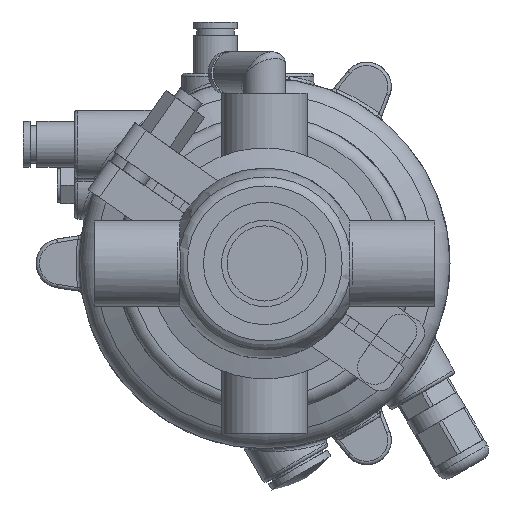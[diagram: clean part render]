
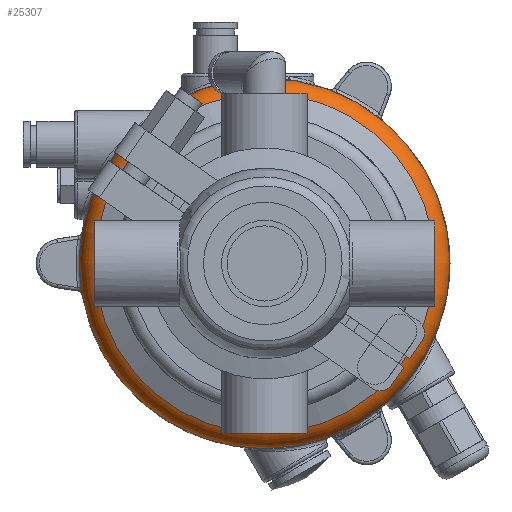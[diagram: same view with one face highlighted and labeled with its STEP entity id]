
A CAD part, front view. The second image highlights one B-rep face of the part: STEP entity #25307.
In plain terms, the highlighted toroidal (fillet/blend) face has major radius 46.5 mm and minor radius 8 mm.
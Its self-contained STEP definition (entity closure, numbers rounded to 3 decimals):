
#594 = CIRCLE ( 'NONE', #25969, 50.007 ) ;
#1123 = ORIENTED_EDGE ( 'NONE', *, *, #17403, .F. ) ;
#1853 = DIRECTION ( 'NONE',  ( 0., 0., -1. ) ) ;
#2256 = AXIS2_PLACEMENT_3D ( 'NONE', #18870, #10333, #38149 ) ;
#2432 = DIRECTION ( 'NONE',  ( 0., -1., 0. ) ) ;
#3221 = AXIS2_PLACEMENT_3D ( 'NONE', #34825, #2432, #1853 ) ;
#5834 = EDGE_LOOP ( 'NONE', ( #22072 ) ) ;
#9406 = EDGE_LOOP ( 'NONE', ( #1123 ) ) ;
#10151 = VERTEX_POINT ( 'NONE', #24227 ) ;
#10333 = DIRECTION ( 'NONE',  ( 0., -1., 0. ) ) ;
#17403 = EDGE_CURVE ( 'NONE', #10151, #10151, #594, .T. ) ;
#18870 = CARTESIAN_POINT ( 'NONE',  ( 0., 14.022, 0. ) ) ;
#21069 = FACE_OUTER_BOUND ( 'NONE', #5834, .T. ) ;
#22072 = ORIENTED_EDGE ( 'NONE', *, *, #37666, .T. ) ;
#24227 = CARTESIAN_POINT ( 'NONE',  ( 0., 6.832, -50.007 ) ) ;
#25307 = ADVANCED_FACE ( 'NONE', ( #21069, #49155 ), #29574, .T. ) ;
#25969 = AXIS2_PLACEMENT_3D ( 'NONE', #38404, #28599, #33496 ) ;
#26834 = VERTEX_POINT ( 'NONE', #46051 ) ;
#28599 = DIRECTION ( 'NONE',  ( 0., -1., 0. ) ) ;
#29574 = TOROIDAL_SURFACE ( 'NONE', #3221, 46.5, 8. ) ;
#33496 = DIRECTION ( 'NONE',  ( 0., 0., -1. ) ) ;
#34825 = CARTESIAN_POINT ( 'NONE',  ( 0., 14.022, 0. ) ) ;
#37666 = EDGE_CURVE ( 'NONE', #26834, #26834, #53959, .T. ) ;
#38149 = DIRECTION ( 'NONE',  ( 0., 0., -1. ) ) ;
#38404 = CARTESIAN_POINT ( 'NONE',  ( 0., 6.832, 0. ) ) ;
#46051 = CARTESIAN_POINT ( 'NONE',  ( 0., 14.022, -54.5 ) ) ;
#49155 = FACE_OUTER_BOUND ( 'NONE', #9406, .T. ) ;
#53959 = CIRCLE ( 'NONE', #2256, 54.5 ) ;
